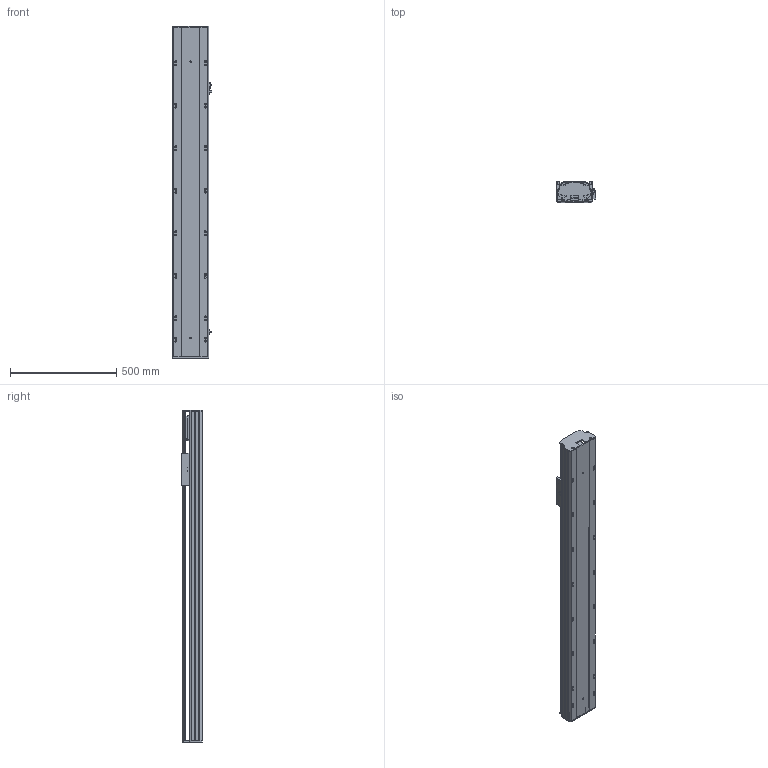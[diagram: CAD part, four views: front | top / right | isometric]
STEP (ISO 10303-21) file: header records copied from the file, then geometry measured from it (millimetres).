
FILE_DESCRIPTION (( 'STEP AP203' ), '1' );
FILE_NAME ('Y170-D10-S1150-M-P400W.STEP', '2020-01-22T13:03:38', ( '微软用户' ), ( '微软中国' ), 'SwSTEP 2.0', 'SolidWorks 2017', '' );
FILE_SCHEMA (( 'CONFIG_CONTROL_DESIGN' ));
Length unit declared in the file: millimetre
Products named in the file (10): Y170--雄赽釱-梓--; 170--掛极-M; Y170耜裔--準---M; san松下电机400不带刹车----; Y170-陔遴奻裔-M; YD-Y100-135-新外置传感挡片(通用）; Y170-D10-S1150-M-P400W; Y100-135俋离換覜ん; 135-盓傅釱-FK15; Y170耜裔--準---
Assembly tree (11 placements, depth 2):
  Y170-D10-S1150-M-P400W
    YD-Y100-135-新外置传感挡片(通用）
    Y100-135俋离換覜ん  x3
    135-盓傅釱-FK15
    Y170耜裔--準---
    Y170--雄赽釱-梓--
    170--掛极-M
    Y170耜裔--準---M
    san松下电机400不带刹车----
    Y170-陔遴奻裔-M
Bounding box: 183.5 x 97 x 1561 mm (x, y, z)
Volume: 6597927.4 mm3; surface area: 2354163.6 mm2
Topology: 11 solids, 11 shells, 809 faces, 2324 edges, 1540 vertices
Faces by surface type: cylinder 423, plane 384, torus 2
Entity records: 26540 total; most frequent: CARTESIAN_POINT 4833, DIRECTION 4382, ORIENTED_EDGE 4312, EDGE_CURVE 2156, AXIS2_PLACEMENT_3D 1561, VERTEX_POINT 1428, VECTOR 1260, LINE 1260
